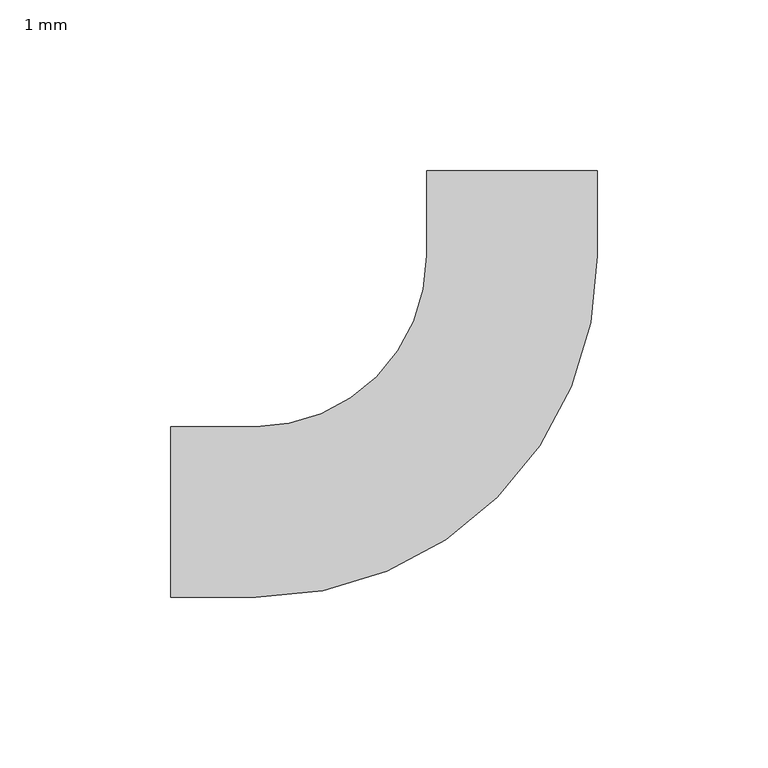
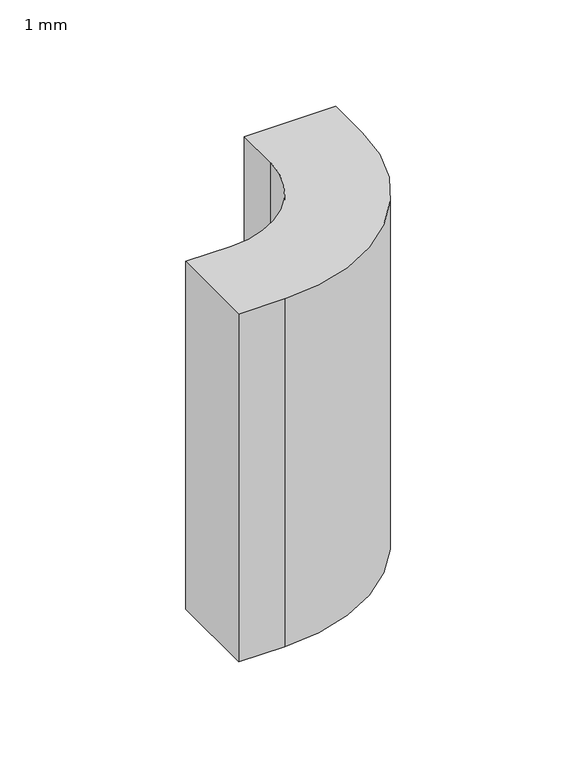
"""IFC4 building model written with IfcOpenShell, lengths in millimetres: cable carrier fitting geometry, BAKS_Łuk_koryta_pionowy (R50)w : 1 mm."""

from ifc_helpers import new_model, si_unit, point, frame, frame_2d, origin, place, context, project, spatial, polyline, circle_curve, trimmed, segment, composite_curve, outline, extrude, source, transform, mapped, element, save


def cable_carrier_fitting_1_mm_d51f4f64(model_context):
    return source(origin(), model_context, "Body", "SweptSolid", [
        extrude(outline(composite_curve([segment(polyline([(-100.0, -25.0), (-100.0, 25.0), (-75.0, 25.0)]), True, "CONTINUOUS"), segment(trimmed(circle_curve(frame_2d((-75.0, 75.0)), 50.0), [point((-75.0, 25.0))], [point((-25.0, 75.0))], True, "CARTESIAN"), True, "CONTINUOUS"), segment(polyline([(-25.0, 75.0), (-25.0, 100.0), (25.0, 100.0), (25.0, 75.0)]), True, "CONTINUOUS"), segment(trimmed(circle_curve(frame_2d((-75.0, 75.0)), 100.0), [point((25.0, 75.0))], [point((-75.0, -25.0))], False, "CARTESIAN"), True, "CONTINUOUS"), segment(polyline([(-75.0, -25.0), (-100.0, -25.0)]), True, "CONTINUOUS")], self_intersect=False)), frame((0.0, 0.0, -100.0), z_axis=(0.0, 0.0, 1.0), x_axis=(1.0, 0.0, 0.0)), (0.0, 0.0, 1.0), 200.0),
    ])


if __name__ == "__main__":
    model = new_model("IFC4")
    model_context = context("Model", 3, world=origin())
    ifc_project = project(units=[si_unit("LENGTHUNIT", "METRE", prefix="MILLI")], contexts=[model_context])
    site = spatial("IfcSite", under=ifc_project)
    building = spatial("IfcBuilding", under=site)
    placement = place(None, origin())
    cable_carrier_fitting_1_mm_shape = cable_carrier_fitting_1_mm_d51f4f64(model_context)
    element("IfcCableCarrierFitting", 1, ObjectType="BAKS_Łuk_koryta_pionowy (R50)w : 1 mm", at=placement, inside=building, context=model_context, shape_type="MappedRepresentation", body=[
        mapped(cable_carrier_fitting_1_mm_shape, transform((0.0, 0.0, 0.0), x_axis=(1.0, 0.0, 0.0), y_axis=(0.0, 1.0, 0.0), z_axis=(0.0, 0.0, 1.0))),
    ])
    save(model, "model.ifc")
